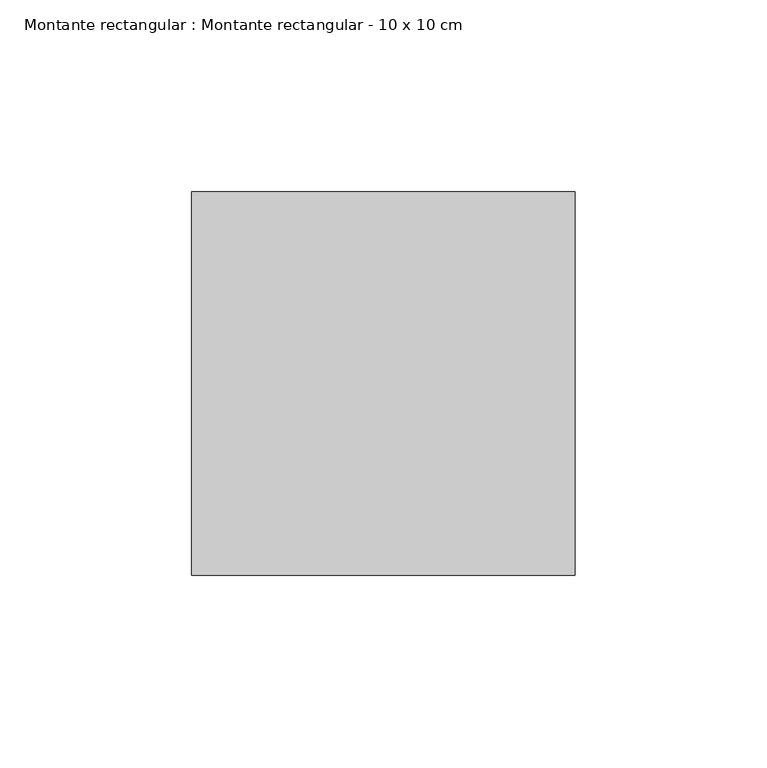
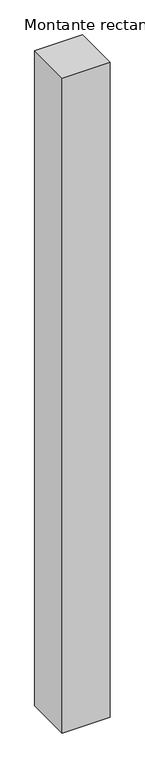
"""IFC4 building model written with IfcOpenShell, lengths in millimetres: member geometry, Montante rectangular : Montante rectangular - 10 x 10 cm."""

from ifc_helpers import new_model, si_unit, frame, origin, place, context, project, spatial, polyline, outline, extrude, source, transform, mapped, element, save


def montante_rectangular_montante_rectangular_10_x_10_cm_fdee114b(model_context):
    return source(origin(), model_context, "Body", "SweptSolid", [
        extrude(outline(polyline([(0.0, -50.0), (-100.0, -50.0), (-100.0, 50.0), (0.0, 50.0), (0.0, -50.0)])), frame((0.0, 0.0, -1451.2571985), z_axis=(0.0, 0.0, 1.0), x_axis=(1.0, 0.0, 0.0)), (0.0, 0.0, 1.0), 1451.2571985),
    ])


if __name__ == "__main__":
    model = new_model("IFC4")
    model_context = context("Model", 3, world=origin())
    ifc_project = project(units=[si_unit("LENGTHUNIT", "METRE", prefix="MILLI")], contexts=[model_context])
    site = spatial("IfcSite", under=ifc_project)
    building = spatial("IfcBuilding", under=site)
    placement = place(None, origin())
    montante_rectangular_montante_rectangular_10_x_10_cm_shape = montante_rectangular_montante_rectangular_10_x_10_cm_fdee114b(model_context)
    element("IfcMember", 1, ObjectType="Montante rectangular : Montante rectangular - 10 x 10 cm", at=placement, inside=building, context=model_context, shape_type="MappedRepresentation", body=[
        mapped(montante_rectangular_montante_rectangular_10_x_10_cm_shape, transform((0.0, 0.0, 0.0), x_axis=(1.0, 0.0, 0.0), y_axis=(0.0, 1.0, 0.0), z_axis=(0.0, 0.0, 1.0))),
    ])
    save(model, "model.ifc")
